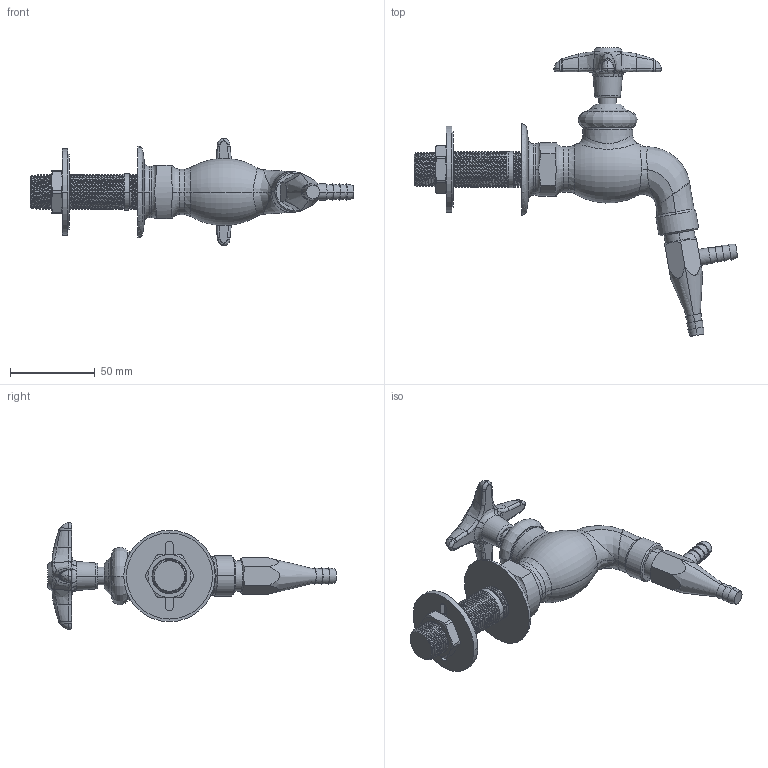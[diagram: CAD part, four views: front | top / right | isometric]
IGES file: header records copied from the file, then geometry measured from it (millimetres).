
Start section:  PTC IGES file: LWV4-B34.igs
Global section: file name: LWV4-B34.igs; native system: Creo Parametric by PTC Inc.; preprocessor: 2014500; author: usch_engrender; organization: Unknown; date: 20150915.131738; units: inch
Bounding box: 191.19 x 170.49 x 63.42 mm (x, y, z)
Volume: 161846.2 mm3; surface area: 36859.6 mm2
Topology: 1 solids, 3 shells, 417 faces, 1010 edges, 615 vertices
Faces by surface type: bspline 245, revolution 172
